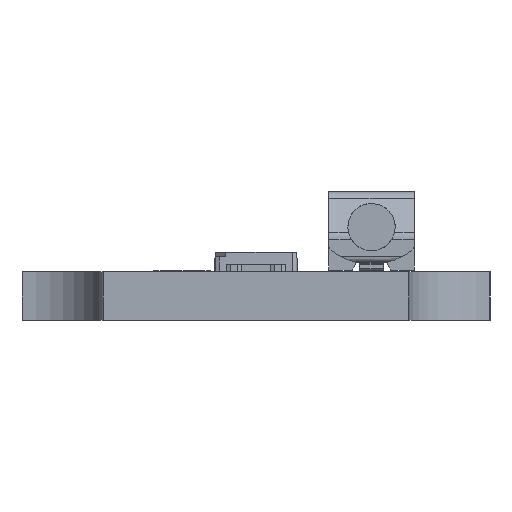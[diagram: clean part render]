
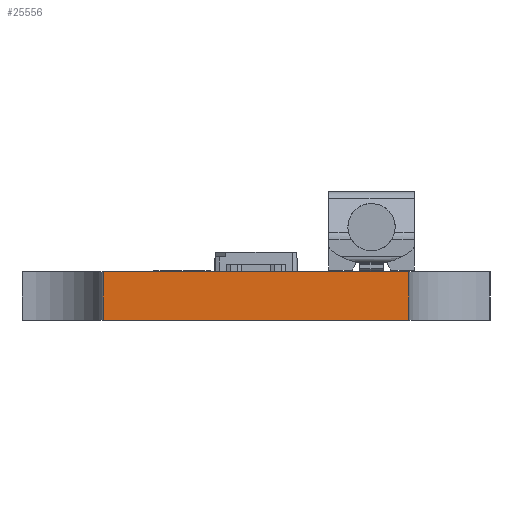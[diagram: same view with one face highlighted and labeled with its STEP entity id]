
A CAD part, left-side view. The second image highlights one B-rep face of the part: STEP entity #25556.
In plain terms, the highlighted planar face has unit normal (-1, 0, 0).
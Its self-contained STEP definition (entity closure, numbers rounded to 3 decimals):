
#129=DIRECTION('',(0.,-1.,0.));
#130=VECTOR('',#129,10.3);
#131=CARTESIAN_POINT('',(-139.8,5.15,1.65));
#132=LINE('',#131,#130);
#5526=DIRECTION('',(0.,1.,0.));
#5527=VECTOR('',#5526,10.3);
#5528=CARTESIAN_POINT('',(-139.8,-5.15,0.));
#5529=LINE('',#5528,#5527);
#5642=DIRECTION('',(0.,0.,1.));
#5643=VECTOR('',#5642,1.65);
#5644=CARTESIAN_POINT('',(-139.8,5.15,0.));
#5645=LINE('',#5644,#5643);
#5646=DIRECTION('',(0.,0.,-1.));
#5647=VECTOR('',#5646,1.65);
#5648=CARTESIAN_POINT('',(-139.8,-5.15,1.65));
#5649=LINE('',#5648,#5647);
#18903=CARTESIAN_POINT('',(-139.8,-5.15,1.65));
#18905=VERTEX_POINT('',#18903);
#18919=CARTESIAN_POINT('',(-139.8,-5.15,0.));
#18920=VERTEX_POINT('',#18919);
#18981=CARTESIAN_POINT('',(-139.8,5.15,1.65));
#18982=VERTEX_POINT('',#18981);
#18983=CARTESIAN_POINT('',(-139.8,5.15,0.));
#18984=VERTEX_POINT('',#18983);
#25544=CARTESIAN_POINT('',(-139.8,5.15,1.65));
#25545=DIRECTION('',(-1.,0.,0.));
#25546=DIRECTION('',(0.,0.,1.));
#25547=AXIS2_PLACEMENT_3D('',#25544,#25545,#25546);
#25548=PLANE('',#25547);
#25550=ORIENTED_EDGE('',*,*,#25549,.T.);
#25551=ORIENTED_EDGE('',*,*,#25465,.T.);
#25552=ORIENTED_EDGE('',*,*,#25538,.T.);
#25553=ORIENTED_EDGE('',*,*,#23298,.T.);
#25554=EDGE_LOOP('',(#25550,#25551,#25552,#25553));
#25555=FACE_OUTER_BOUND('',#25554,.F.);
#25556=ADVANCED_FACE('',(#25555),#25548,.T.);
#23298=EDGE_CURVE('',#18982,#18905,#132,.T.);
#25465=EDGE_CURVE('',#18920,#18984,#5529,.T.);
#25538=EDGE_CURVE('',#18984,#18982,#5645,.T.);
#25549=EDGE_CURVE('',#18905,#18920,#5649,.T.);
